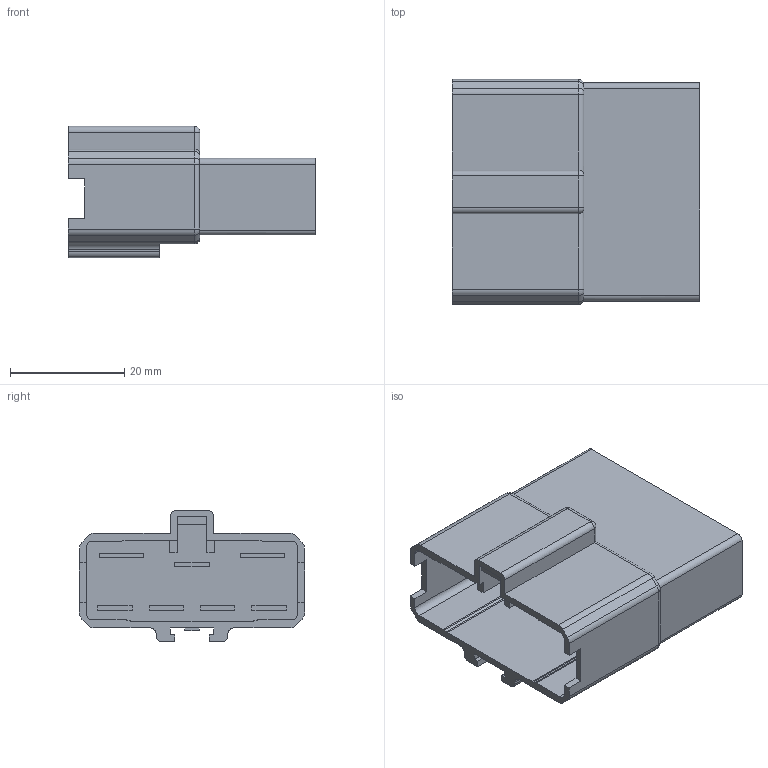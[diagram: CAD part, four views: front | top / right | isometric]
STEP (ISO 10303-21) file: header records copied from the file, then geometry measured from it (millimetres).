
FILE_DESCRIPTION(('CATIA V5 STEP Exchange'),'2;1');
FILE_NAME('N:\C-DAM_MyDesk\ENV\900093\6950-1030.stp','2013-04-10T07:54:31+00:00',('none'),('none'),'CATIA Version 5 Release 20 SP 4 (IN-10)','CATIA V5 STEP AP203','none');
FILE_SCHEMA(('CONFIG_CONTROL_DESIGN'));
Length unit declared in the file: millimetre
Products named in the file (1): 6950-1030
Bounding box: 43.4 x 39.4 x 23 mm (x, y, z)
Volume: 14119.5 mm3; surface area: 9037.5 mm2
Topology: 1 solids, 1 shells, 197 faces, 520 edges, 338 vertices
Faces by surface type: plane 145, cylinder 42, revolution 8, sphere 2
Entity records: 5822 total; most frequent: CARTESIAN_POINT 1138, ORIENTED_EDGE 1036, DIRECTION 794, EDGE_CURVE 518, VECTOR 420, LINE 420, VERTEX_POINT 338, AXIS2_PLACEMENT_3D 224
